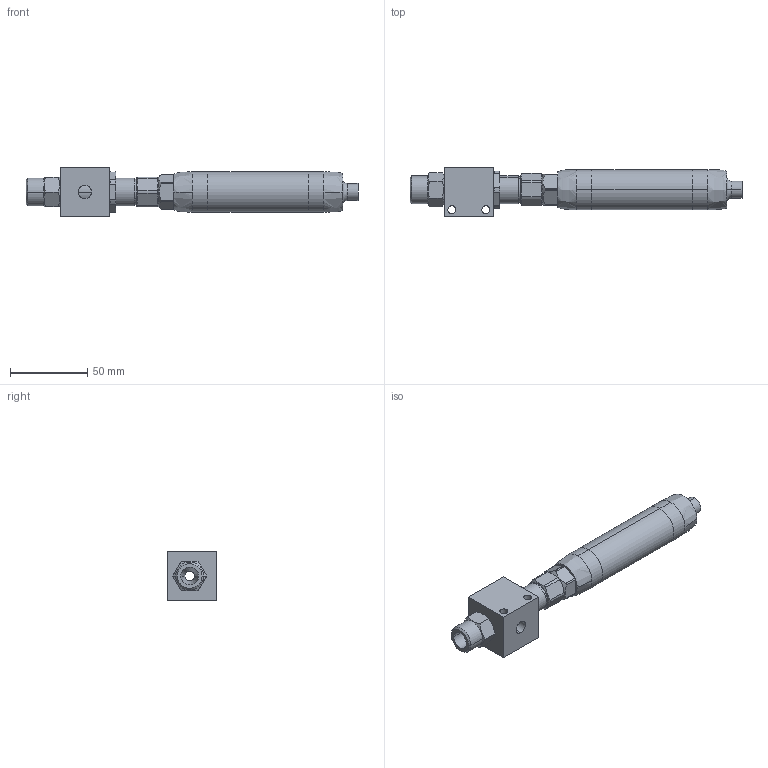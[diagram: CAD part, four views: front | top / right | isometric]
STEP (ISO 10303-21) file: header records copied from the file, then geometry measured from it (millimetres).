
FILE_DESCRIPTION (( 'STEP AP214' ), '1' );
FILE_NAME ('2EJL32063141838H00.STEP', '2010-09-20T14:00:24', ( ' ' ), ( ' ' ), 'SwSTEP 2.0', 'SolidWorks 2007', '' );
FILE_SCHEMA (( 'AUTOMOTIVE_DESIGN' ));
Length unit declared in the file: millimetre
Products named in the file (7): 2EJL32063141838H00; S0717008_9BS210506; Corps EJL32_6.3; S0717006_long; S0717005_elipse court; S0717004_elipse court; S0717009_S0717010
Assembly tree (6 placements, depth 2):
  2EJL32063141838H00
    S0717006_long
    S0717005_elipse court
    S0717008_9BS210506
    S0717009_S0717010
    S0717004_elipse court
    Corps EJL32_6.3
Bounding box: 214.5 x 32 x 32 mm (x, y, z)
Volume: 86030.7 mm3; surface area: 61339.7 mm2
Topology: 7 solids, 7 shells, 232 faces, 538 edges, 342 vertices
Faces by surface type: cylinder 83, plane 67, cone 50, torus 24, bspline 8
Entity records: 9228 total; most frequent: CARTESIAN_POINT 1970, DIRECTION 1198, ORIENTED_EDGE 1076, EDGE_CURVE 538, AXIS2_PLACEMENT_3D 506, VERTEX_POINT 342, CIRCLE 273, EDGE_LOOP 268
